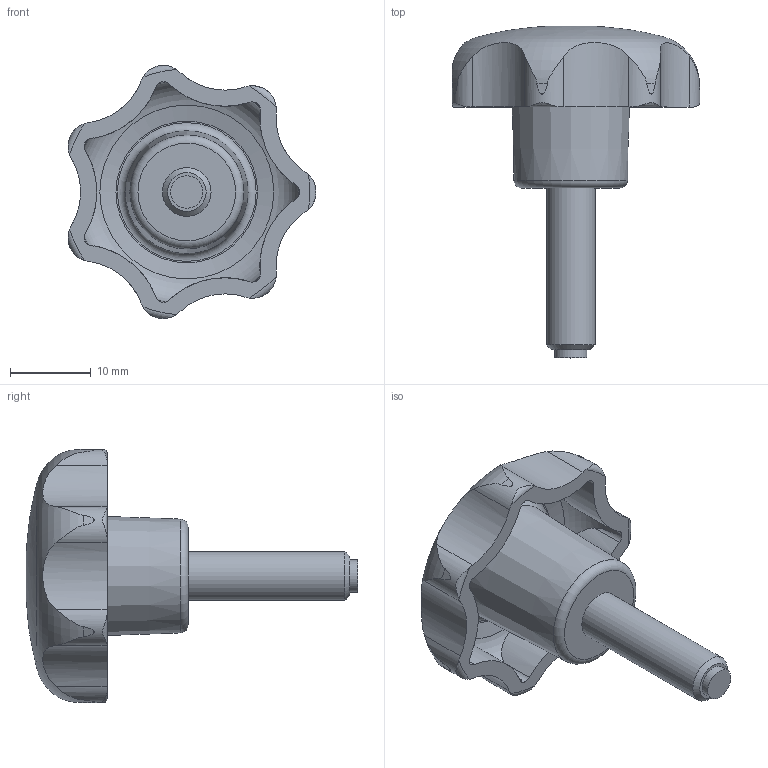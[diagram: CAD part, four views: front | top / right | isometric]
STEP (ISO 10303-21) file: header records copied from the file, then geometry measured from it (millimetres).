
FILE_DESCRIPTION( ( 'STEP AP203' ), '1' );
FILE_NAME( 'C:/Temp/Ganter_Step_05_03_2020/data/2_2/gn6336_10/Star knob GN 6336.10-32-M6-20-MS.stp', '2020-03-05T12:04:09', ( 'License CC BY-ND 4.0' ), ( 'CADENAS' ), ' ', 'PARTsolutions', ' ' );
FILE_SCHEMA( ( 'CONFIG_CONTROL_DESIGN' ) );
Length unit declared in the file: millimetre
Products named in the file (1): _Star knob GN 6336.10-32-M6-20-MS
Bounding box: 30.63 x 41.02 x 31.27 mm (x, y, z)
Volume: 5964.2 mm3; surface area: 3681.8 mm2
Topology: 1 solids, 1 shells, 65 faces, 189 edges, 128 vertices
Faces by surface type: cylinder 30, cone 17, torus 13, plane 4, bspline 1
Full cylindrical faces by diameter (mm): 4 x1, 6 x1
Entity records: 3035 total; most frequent: CARTESIAN_POINT 1421, ORIENTED_EDGE 348, DIRECTION 296, EDGE_CURVE 174, AXIS2_PLACEMENT_3D 134, VERTEX_POINT 125, EDGE_LOOP 78, B_SPLINE_CURVE_WITH_KNOTS 77
